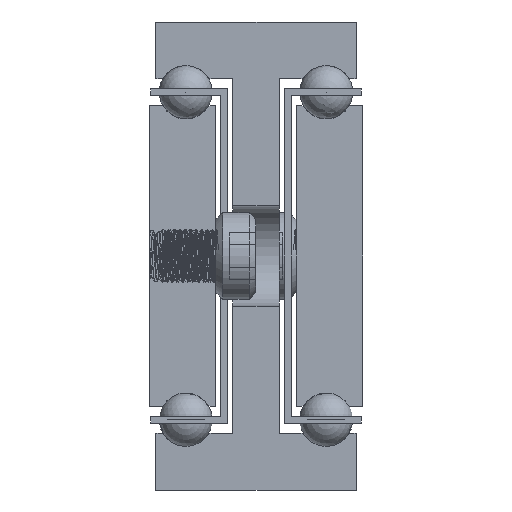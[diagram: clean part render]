
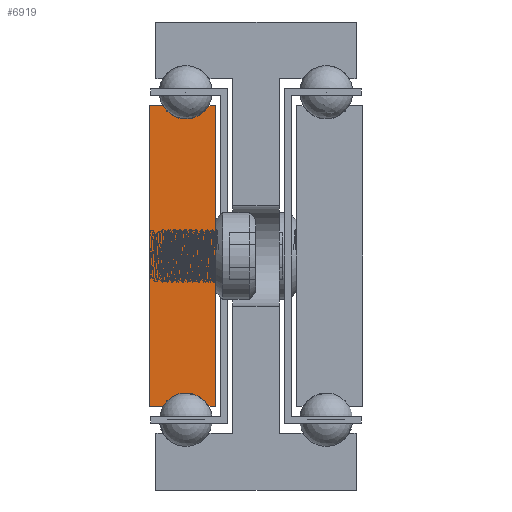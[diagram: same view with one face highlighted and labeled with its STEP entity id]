
A CAD part, front view. The second image highlights one B-rep face of the part: STEP entity #6919.
In plain terms, the highlighted planar face has unit normal (0, -1, 0).
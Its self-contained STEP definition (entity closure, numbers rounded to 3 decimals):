
#1033=PLANE('',#7456);
#1223=FACE_OUTER_BOUND('',#1731,.T.);
#1731=EDGE_LOOP('',(#5440,#5441,#5442,#5443,#5444,#5445,#5446,#5447));
#2542=LINE('',#97911,#2754);
#2545=LINE('',#97917,#2757);
#2549=LINE('',#97929,#2761);
#2552=LINE('',#97935,#2764);
#2555=LINE('',#97941,#2767);
#2559=LINE('',#97951,#2771);
#2754=VECTOR('',#8398,1.);
#2757=VECTOR('',#8403,1.);
#2761=VECTOR('',#8415,1.);
#2764=VECTOR('',#8420,1.);
#2767=VECTOR('',#8425,1.);
#2771=VECTOR('',#8437,1.);
#2931=CIRCLE('',#7447,4.);
#2933=CIRCLE('',#7453,4.);
#3450=VERTEX_POINT('',#97908);
#3451=VERTEX_POINT('',#97910);
#3453=VERTEX_POINT('',#97916);
#3455=VERTEX_POINT('',#97922);
#3457=VERTEX_POINT('',#97928);
#3459=VERTEX_POINT('',#97934);
#3461=VERTEX_POINT('',#97940);
#3463=VERTEX_POINT('',#97946);
#4272=EDGE_CURVE('',#3451,#3450,#2542,.T.);
#4275=EDGE_CURVE('',#3453,#3451,#2545,.T.);
#4278=EDGE_CURVE('',#3455,#3453,#2931,.T.);
#4281=EDGE_CURVE('',#3457,#3455,#2549,.T.);
#4284=EDGE_CURVE('',#3459,#3457,#2552,.T.);
#4287=EDGE_CURVE('',#3461,#3459,#2555,.T.);
#4290=EDGE_CURVE('',#3463,#3461,#2933,.T.);
#4293=EDGE_CURVE('',#3450,#3463,#2559,.T.);
#5440=ORIENTED_EDGE('',*,*,#4293,.T.);
#5441=ORIENTED_EDGE('',*,*,#4290,.T.);
#5442=ORIENTED_EDGE('',*,*,#4287,.T.);
#5443=ORIENTED_EDGE('',*,*,#4284,.T.);
#5444=ORIENTED_EDGE('',*,*,#4281,.T.);
#5445=ORIENTED_EDGE('',*,*,#4278,.T.);
#5446=ORIENTED_EDGE('',*,*,#4275,.T.);
#5447=ORIENTED_EDGE('',*,*,#4272,.T.);
#6919=ADVANCED_FACE('',(#1223),#1033,.T.);
#7447=AXIS2_PLACEMENT_3D('',#97923,#8409,#8410);
#7453=AXIS2_PLACEMENT_3D('',#97947,#8431,#8432);
#7456=AXIS2_PLACEMENT_3D('',#97953,#8440,#8441);
#8398=DIRECTION('',(0.,0.,-1.));
#8403=DIRECTION('',(-1.,0.,0.));
#8409=DIRECTION('center_axis',(0.,1.,0.));
#8410=DIRECTION('ref_axis',(-0.866,0.,-0.5));
#8415=DIRECTION('',(-1.,0.,0.));
#8420=DIRECTION('',(0.,0.,1.));
#8425=DIRECTION('',(1.,0.,0.));
#8431=DIRECTION('center_axis',(0.,1.,0.));
#8432=DIRECTION('ref_axis',(0.866,0.,0.5));
#8437=DIRECTION('',(1.,0.,0.));
#8440=DIRECTION('center_axis',(0.,-1.,0.));
#8441=DIRECTION('ref_axis',(1.,0.,0.));
#97908=CARTESIAN_POINT('',(-1974.387,-2076.735,12.5));
#97910=CARTESIAN_POINT('',(-1974.387,-2076.735,57.5));
#97911=CARTESIAN_POINT('',(-1974.387,-2076.735,12.5));
#97916=CARTESIAN_POINT('',(-1972.351,-2076.735,57.5));
#97917=CARTESIAN_POINT('',(-1974.387,-2076.735,57.5));
#97922=CARTESIAN_POINT('',(-1965.423,-2076.735,57.5));
#97923=CARTESIAN_POINT('Origin',(-1968.887,-2076.735,59.5));
#97928=CARTESIAN_POINT('',(-1964.387,-2076.735,57.5));
#97929=CARTESIAN_POINT('',(-1965.423,-2076.735,57.5));
#97934=CARTESIAN_POINT('',(-1964.387,-2076.735,12.5));
#97935=CARTESIAN_POINT('',(-1964.387,-2076.735,57.5));
#97940=CARTESIAN_POINT('',(-1965.423,-2076.735,12.5));
#97941=CARTESIAN_POINT('',(-1964.387,-2076.735,12.5));
#97946=CARTESIAN_POINT('',(-1972.351,-2076.735,12.5));
#97947=CARTESIAN_POINT('Origin',(-1968.887,-2076.735,10.5));
#97951=CARTESIAN_POINT('',(-1972.351,-2076.735,12.5));
#97953=CARTESIAN_POINT('Origin',(-1969.393,-2076.735,35.));
